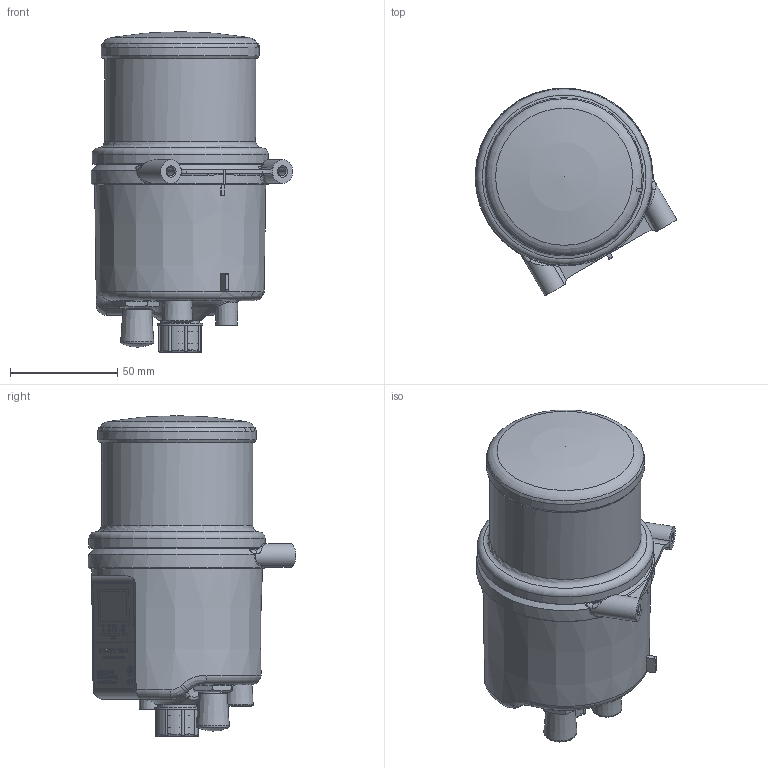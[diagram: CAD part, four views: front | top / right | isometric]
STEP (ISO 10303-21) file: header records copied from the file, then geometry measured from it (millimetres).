
FILE_DESCRIPTION(/* description */ ('Unknown'),/* implementation_level */ '2;1');
FILE_NAME(/* name */ 'FlexxPump1 N125',/* time_stamp */ '2019-12-05T06:47:34+01:00',/* author */ ('Unknown'),/* organization */ ('Unknown'),/* preprocessor_version */ 'ST-DEVELOPER v16.7',/* originating_system */ 'DEX',/* authorisation */ $);
FILE_SCHEMA (('AUTOMOTIVE_DESIGN {1 0 10303 214 3 1 1}'));
Length unit declared in the file: millimetre
Products named in the file (41): FlexxPump1 N125; 205390c BG Kartusche leer FP1 125ml; 206990 O-Ring 24x2,5 NBR70; 204478 Kartuschenkolben FP1; 203435d Deckel FP1; 203434c Kartusche FP1 125ml; 204921d Kolbendichtung C2 FP1; 301397b Kartuschendeckel FP1 FP4; 211025 BG Antriebseinheit FP1 Nxxx_oa_0; 207569 O-Ring 70x3 NBR70; 211012 BG Gehäuseabdeckung FP1 grün, Netzteil; 210893 Gehäuseabdeckung FP1 grün; 210123 BG Kartuschendichtung FP1 beschichtet; 208900 BG Kartuschenerkennungsschalter FP1 vorbereitet; 200983b Magnethalter C2 FP1; 302337 Kugel 3,175mm; 200445 Stabmagnet 3x6mm; 200819 Feder Magenthalter TS 0,4 x Da 6,0 x L 19,8_9,8mm; 204479b Gewindeeinsatz FP1; 206872 Gewindefurchendeschraube für Kunststoff 3x8; 301855 Reedsensor MS-213 10-15 AT; 205001 Gewindeanschlussteil FP1 M10-M16; 210056 Verschlusskappe FP1; 301382 Abschluss-Kappe M12x1 Buchse; 207012 O-Ring 10x1 NBR70; 205156 O-Ring 18x2 NBR70; 300099 M12x1 Stecker mit Kabel 120mm FP; 204758 Platine FlexxLube V4.2; 300118 LCD-Display; 208894 BG Gehäuse FP1 Netzteil vorbereitet; 205548 Gehäuse FP1 Netzteil mit Bohrung; 207019 BG Einschalter FP1 mit Magnet; 207018d Einschalter FP1; 207007 Stabmagnet 4x10mm; 200984b Fenster C2 FP1; 209169 Kugel 4,3mm; 210353 KAPSTO Schraubkappen GPN800 M16x1,5; 301259b Unterlegscheibe 20x15x0,5 FP; 301256 Mutter PG9 f黵 Einbaustecker M12x1; 210900 Frontfolie FP1 LUB-S 24VDC
Assembly tree (43 placements, depth 5):
  FlexxPump1 N125
    205390c BG Kartusche leer FP1 125ml
      206990 O-Ring 24x2,5 NBR70
      204478 Kartuschenkolben FP1
      203435d Deckel FP1
      203434c Kartusche FP1 125ml
      204921d Kolbendichtung C2 FP1
      301397b Kartuschendeckel FP1 FP4
    211025 BG Antriebseinheit FP1 Nxxx_oa_0
      207569 O-Ring 70x3 NBR70
      211012 BG Gehäuseabdeckung FP1 grün, Netzteil
        210893 Gehäuseabdeckung FP1 grün
        210123 BG Kartuschendichtung FP1 beschichtet
        208900 BG Kartuschenerkennungsschalter FP1 vorbereitet
          200983b Magnethalter C2 FP1
          302337 Kugel 3,175mm  x2
          200445 Stabmagnet 3x6mm
          200819 Feder Magenthalter TS 0,4 x Da 6,0 x L 19,8_9,8mm
        204479b Gewindeeinsatz FP1
        206872 Gewindefurchendeschraube für Kunststoff 3x8
        301855 Reedsensor MS-213 10-15 AT
      206872 Gewindefurchendeschraube für Kunststoff 3x8  x2
      205001 Gewindeanschlussteil FP1 M10-M16
      210056 Verschlusskappe FP1
      301382 Abschluss-Kappe M12x1 Buchse
      207012 O-Ring 10x1 NBR70
      205156 O-Ring 18x2 NBR70
      300099 M12x1 Stecker mit Kabel 120mm FP
      204758 Platine FlexxLube V4.2
        204758 Platine FlexxLube V4.2
        300118 LCD-Display
      208894 BG Gehäuse FP1 Netzteil vorbereitet
        205548 Gehäuse FP1 Netzteil mit Bohrung
        207019 BG Einschalter FP1 mit Magnet
          207018d Einschalter FP1
          207007 Stabmagnet 4x10mm
        200984b Fenster C2 FP1
        209169 Kugel 4,3mm
      210353 KAPSTO Schraubkappen GPN800 M16x1,5
      301259b Unterlegscheibe 20x15x0,5 FP
      301256 Mutter PG9 f黵 Einbaustecker M12x1
    210900 Frontfolie FP1 LUB-S 24VDC
Bounding box: 93.95 x 96.88 x 149.34 mm (x, y, z)
Volume: 143749.1 mm3; surface area: 198311.1 mm2
Topology: 36 solids, 39 shells, 2841 faces, 7192 edges, 4661 vertices
Faces by surface type: plane 1783, cylinder 400, bspline 296, cone 180, torus 144, sphere 38
Full cylindrical faces by diameter (mm): 0.239 x3, 0.533 x2, 0.7 x4, 0.8 x4, 1.039 x2, 1.2 x2, 1.3 x4, 1.5 x12, 2.2 x1, 2.5 x1, 2.842 x1, 3 x5, 3.1 x1, 3.155 x2, 3.8 x1, 4 x2, 4.134 x4, 4.298 x1, 4.5 x1, 5 x1, 5.4 x1, 5.5 x3, 5.6 x1, 6 x1, 6.2 x1, 7 x1, 8.4 x1, 8.917 x2, 10 x2, 10.5 x1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
Entity records: 104706 total; most frequent: CARTESIAN_POINT 31605, ORIENTED_EDGE 13128, DIRECTION 11071, EDGE_CURVE 6564, VERTEX_POINT 4423, AXIS2_PLACEMENT_3D 3862, FACE_BOUND 3387, EDGE_LOOP 3383
